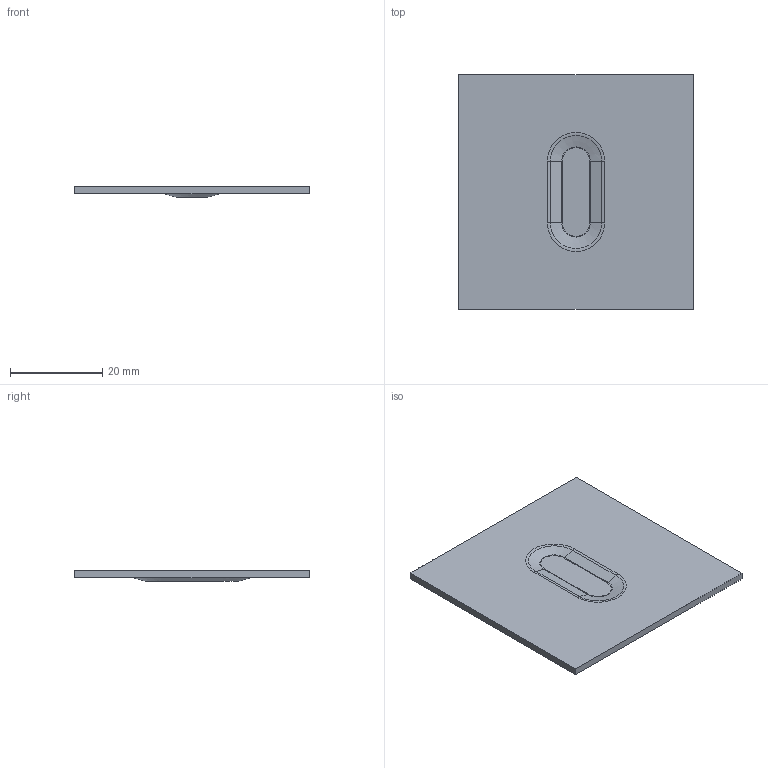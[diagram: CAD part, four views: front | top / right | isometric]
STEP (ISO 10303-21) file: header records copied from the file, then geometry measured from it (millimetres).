
FILE_DESCRIPTION((''),'1');
FILE_NAME('C:/Users/robertnolte/Desktop/246-4105.stp','2012-03-30T23:11:36',(''),(''),'Spatial Interop R21 SP3','Kubotek KeyCreator 2011 V10.5.0 (24766)',' ');
FILE_SCHEMA(('CONFIG_CONTROL_DESIGN'));
Length unit declared in the file: inch
Products named in the file (1): 1
Bounding box: 50.8 x 50.8 x 2.29 mm (x, y, z)
Volume: 3941 mm3; surface area: 5481.5 mm2
Topology: 1 solids, 1 shells, 32 faces, 68 edges, 40 vertices
Faces by surface type: plane 12, torus 8, cylinder 8, cone 4
Entity records: 900 total; most frequent: DIRECTION 166, CARTESIAN_POINT 141, ORIENTED_EDGE 136, EDGE_CURVE 68, AXIS2_PLACEMENT_3D 65, VERTEX_POINT 40, LINE 36, VECTOR 36
